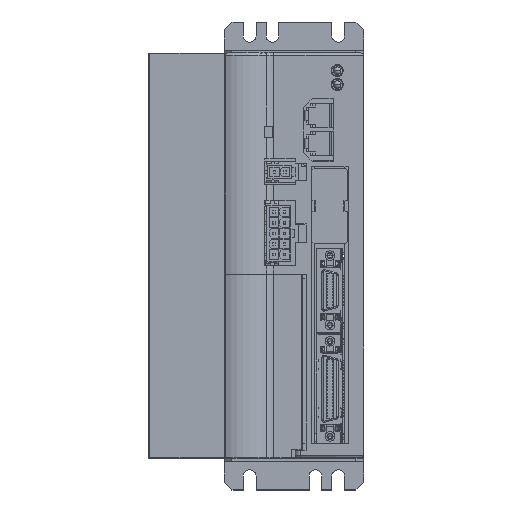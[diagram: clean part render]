
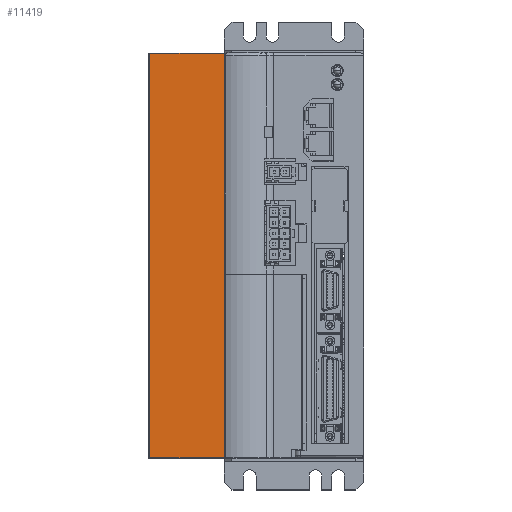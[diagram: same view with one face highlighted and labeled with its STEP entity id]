
A CAD part, top view. The second image highlights one B-rep face of the part: STEP entity #11419.
In plain terms, the highlighted planar face has unit normal (0, 0, 1).
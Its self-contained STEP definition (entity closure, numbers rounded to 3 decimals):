
#11419=ADVANCED_FACE('',(#41893),#41892,.T.);
#41892=PLANE('',#67136);
#41893=FACE_OUTER_BOUND('',#67137,.T.);
#67133=CARTESIAN_POINT('',(-87.45,-10.,-21.));
#67134=DIRECTION('',(0.,0.,1.));
#67135=DIRECTION('',(1.,0.,0.));
#67136=AXIS2_PLACEMENT_3D('',#67133,#67134,#67135);
#67137=EDGE_LOOP('',(#88733,#88734,#88735,#88736));
#88733=ORIENTED_EDGE('',*,*,#102061,.F.);
#88734=ORIENTED_EDGE('',*,*,#102175,.F.);
#88735=ORIENTED_EDGE('',*,*,#102062,.T.);
#88736=ORIENTED_EDGE('',*,*,#101937,.T.);
#101937=EDGE_CURVE('',#157935,#157927,#157936,.T.);
#102061=EDGE_CURVE('',#158794,#157927,#158801,.T.);
#102062=EDGE_CURVE('',#158807,#157935,#158808,.T.);
#102175=EDGE_CURVE('',#158807,#158794,#159595,.T.);
#157927=VERTEX_POINT('',#210954);
#157935=VERTEX_POINT('',#210959);
#157936=LINE('',#210960,#210961);
#158794=VERTEX_POINT('',#211512);
#158801=LINE('',#211517,#211518);
#158807=VERTEX_POINT('',#211520);
#158808=LINE('',#211521,#211522);
#159595=LINE('',#212024,#212025);
#210954=CARTESIAN_POINT('',(-55.,160.,-21.));
#210959=CARTESIAN_POINT('',(-55.,0.,-21.));
#210960=CARTESIAN_POINT('',(-55.,0.,-21.));
#210961=VECTOR('',#210962,160.);
#210962=DIRECTION('',(0.,1.,0.));
#211512=CARTESIAN_POINT('',(-84.5,160.,-21.));
#211517=CARTESIAN_POINT('',(-84.5,160.,-21.));
#211518=VECTOR('',#211519,29.5);
#211519=DIRECTION('',(1.,0.,0.));
#211520=CARTESIAN_POINT('',(-84.5,0.,-21.));
#211521=CARTESIAN_POINT('',(-84.5,0.,-21.));
#211522=VECTOR('',#211523,29.5);
#211523=DIRECTION('',(1.,0.,0.));
#212024=CARTESIAN_POINT('',(-84.5,0.,-21.));
#212025=VECTOR('',#212026,160.);
#212026=DIRECTION('',(0.,1.,0.));
